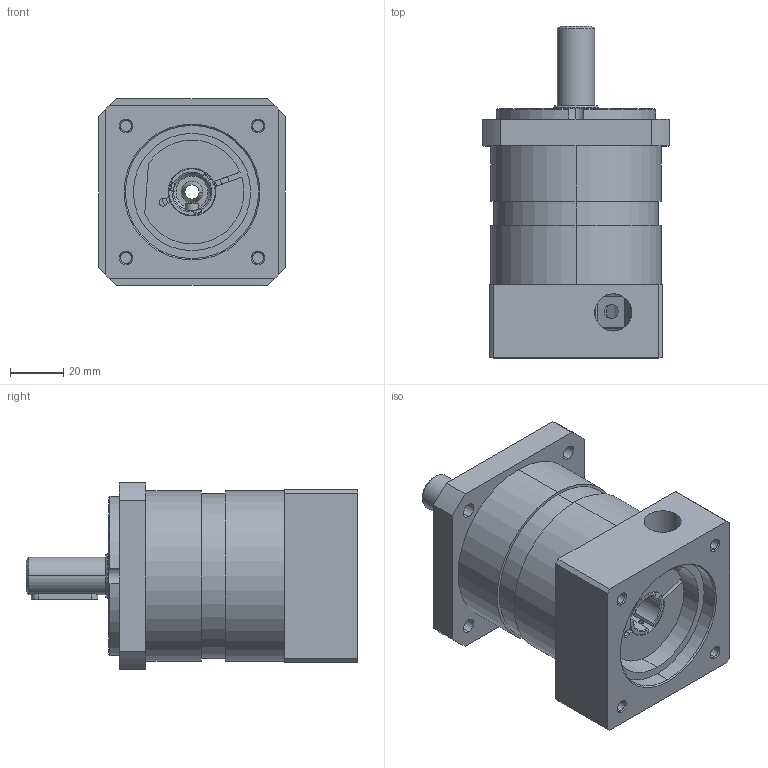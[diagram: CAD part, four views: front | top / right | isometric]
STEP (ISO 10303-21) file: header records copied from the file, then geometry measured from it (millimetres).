
FILE_DESCRIPTION (( 'STEP AP214' ), '1' );
FILE_NAME ('64珨撰源怀堤俋褲.STEP', '2017-04-27T05:12:24', ( '' ), ( '' ), 'SwSTEP 2.0', 'SolidWorks 2016', '' );
FILE_SCHEMA (( 'AUTOMOTIVE_DESIGN' ));
Length unit declared in the file: millimetre
Products named in the file (1): 64珨撰源怀堤俋褲
Bounding box: 70 x 124.6 x 70 mm (x, y, z)
Surface area: 43552.9 mm2 (no closed solid volume)
Topology: 0 solids, 11 shells, 158 faces, 461 edges, 314 vertices
Faces by surface type: cylinder 86, plane 42, cone 28, torus 2
Entity records: 7326 total; most frequent: CARTESIAN_POINT 1247, DIRECTION 981, ORIENTED_EDGE 800, EDGE_CURVE 461, AXIS2_PLACEMENT_3D 390, VERTEX_POINT 314, CIRCLE 231, VECTOR 201
